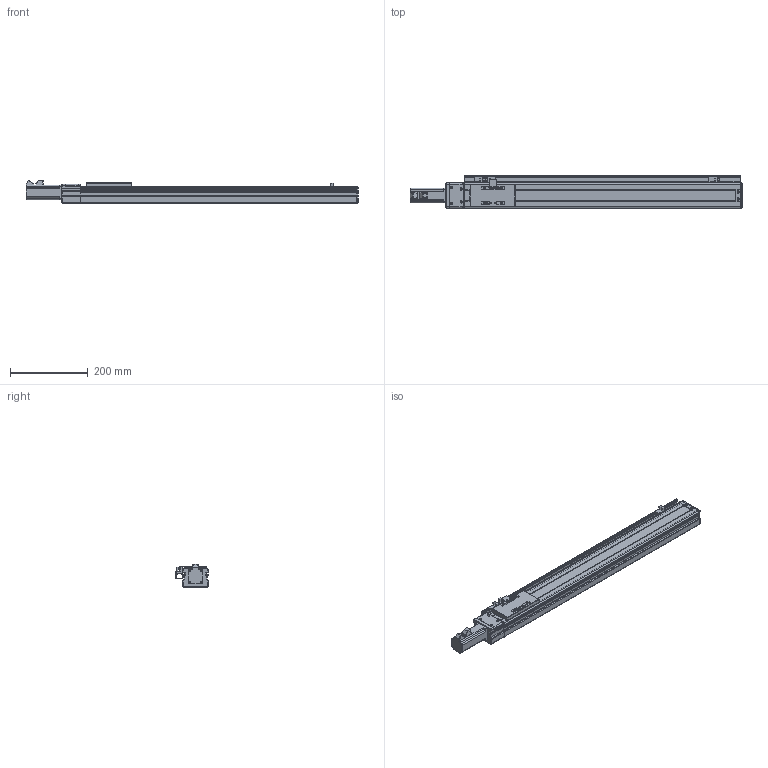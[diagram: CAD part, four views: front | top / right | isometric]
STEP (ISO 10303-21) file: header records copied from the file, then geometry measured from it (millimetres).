
FILE_DESCRIPTION (( 'STEP AP203' ), '1' );
FILE_NAME ('VT6-L10-C-S560-BC-P10-C4.STEP', '2015-10-26T05:59:28', ( '' ), ( '' ), 'SwSTEP 2.0', 'SolidWorks 2013', '' );
FILE_SCHEMA (( 'CONFIG_CONTROL_DESIGN' ));
Length unit declared in the file: millimetre
Products named in the file (15): ET6-BC絳寢_俴最560; ET6-BC佪裝_560; ET6-BC癹弇羲壽羞_560; VT6-L10-C-S560-BC-P10-C4; EE-XS674; T6-賑雄殤; T6-裔啣; T6-揤輸; 侂狟100W MSMD012G1U; T6-覜茼え; T6-綴傷裔; T6-BCヶ傷裔揤啣; ET6-BC滅鳥湍_560; T6-BCヶ傷裔; ET6-BC耜啣_560
Assembly tree (17 placements, depth 2):
  VT6-L10-C-S560-BC-P10-C4
    ET6-BC耜啣_560  x2
    ET6-BC癹弇羲壽羞_560
    T6-賑雄殤
    T6-裔啣
    T6-揤輸
    T6-覜茼え
    T6-綴傷裔
    EE-XS674  x3
    ET6-BC絳寢_俴最560
    ET6-BC滅鳥湍_560
    T6-BCヶ傷裔揤啣
    T6-BCヶ傷裔
    侂狟100W MSMD012G1U
    ET6-BC佪裝_560
Bounding box: 854 x 83 x 61 mm (x, y, z)
Volume: 944392.7 mm3; surface area: 548825.5 mm2
Topology: 17 solids, 17 shells, 900 faces, 2385 edges, 1508 vertices
Faces by surface type: cylinder 420, plane 378, cone 56, torus 28, sphere 18
Entity records: 27698 total; most frequent: CARTESIAN_POINT 4801, DIRECTION 4633, ORIENTED_EDGE 4296, EDGE_CURVE 2148, AXIS2_PLACEMENT_3D 1692, VERTEX_POINT 1368, LINE 1249, VECTOR 1249
